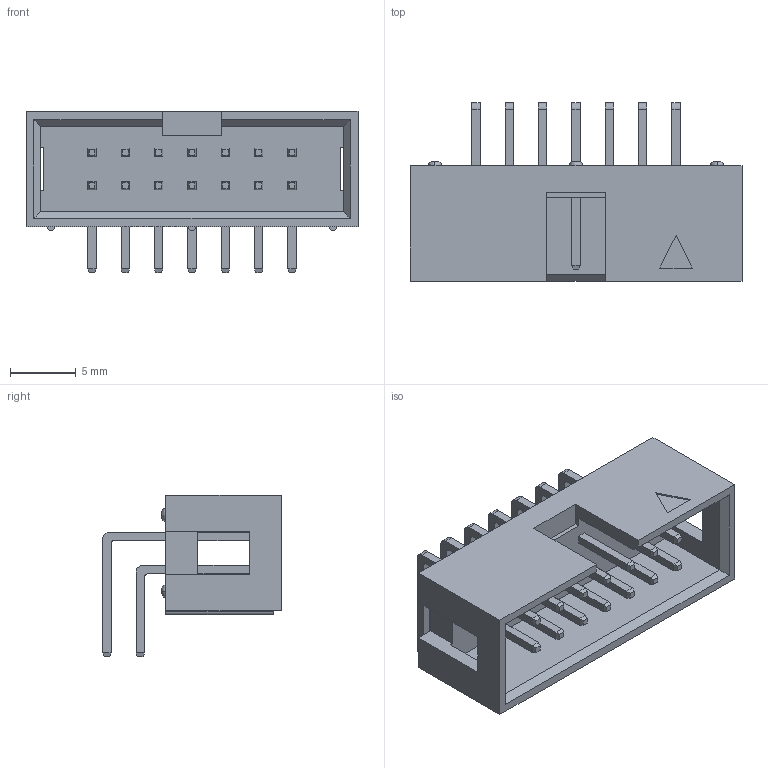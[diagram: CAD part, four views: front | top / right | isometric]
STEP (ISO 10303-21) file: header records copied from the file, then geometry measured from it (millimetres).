
FILE_DESCRIPTION(('STEP AP242'),'1');
FILE_NAME('sbh11-pbpc-d07-ra-bk.stp','2024-12-20T07:53:25',('TraceParts'),('TraceParts S.A.'),'Spatial InterOp 3D',' ',' ');
FILE_SCHEMA(('AP242_MANAGED_MODEL_BASED_3D_ENGINEERING_MIM_LF {1 0 10303 442 1 1 4}'));
Length unit declared in the file: millimetre
Products named in the file (1): sbh11-pbpc-d07-ra-bk_1
Bounding box: 25.28 x 13.6 x 12.3 mm (x, y, z)
Volume: 1001.4 mm3; surface area: 2082.4 mm2
Topology: 13 solids, 13 shells, 431 faces, 1024 edges, 626 vertices
Faces by surface type: plane 385, cylinder 34, bspline 8, torus 4
Entity records: 12241 total; most frequent: CARTESIAN_POINT 2238, ORIENTED_EDGE 2048, DIRECTION 1984, EDGE_CURVE 1024, LINE 920, VECTOR 920, VERTEX_POINT 626, AXIS2_PLACEMENT_3D 532
